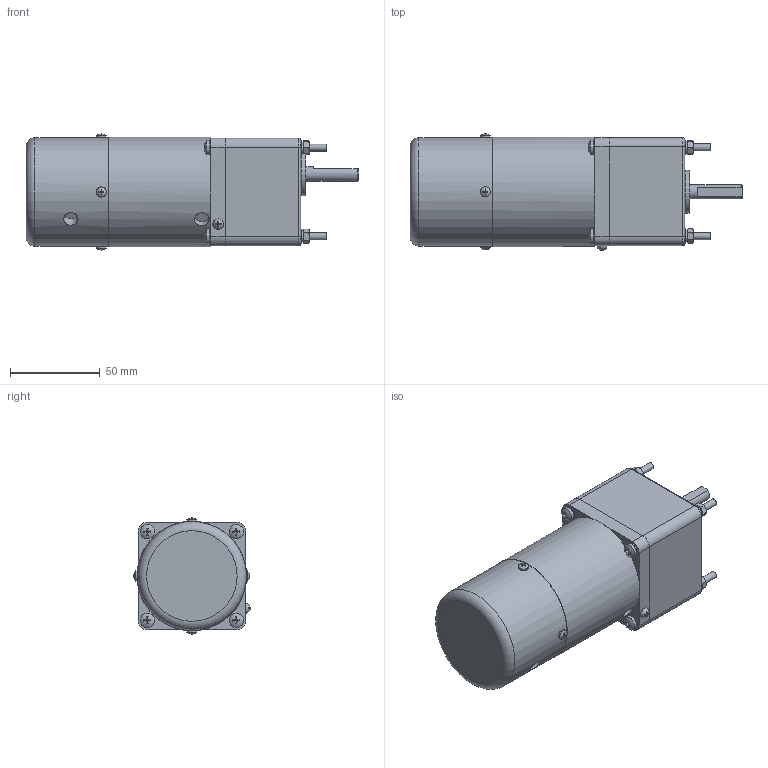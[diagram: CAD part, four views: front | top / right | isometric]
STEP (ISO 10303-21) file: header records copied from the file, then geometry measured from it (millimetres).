
FILE_DESCRIPTION(/* description */ (''),/* implementation_level */ '2;1');
FILE_NAME(/* name */ '60高箱T-6W刹车.stp',/* time_stamp */ '2022-10-31T08:42:34+08:00',/* author */ (''),/* organization */ (''),/* preprocessor_version */ 'ST-DEVELOPER v16.7',/* originating_system */ 'SIEMENS PLM Software NX 1899',/* authorisation */ '');
FILE_SCHEMA (('AP203_CONFIGURATION_CONTROLLED_3D_DESIGN_OF_MECHANICAL_PARTS_AND_ASSEMBLIES_MIM_LF { 1 0 10303 403 2 1 2}'));
Length unit declared in the file: millimetre
Products named in the file (1): yf186188FEB6lc36
Bounding box: 185 x 64.82 x 64.66 mm (x, y, z)
Volume: 477476.3 mm3; surface area: 56215.9 mm2
Topology: 22 solids, 23 shells, 454 faces, 1096 edges, 704 vertices
Faces by surface type: plane 209, bspline 84, cylinder 83, cone 61, torus 11, sphere 6
Full cylindrical faces by diameter (mm): 3 x1, 3.432 x4, 3.838 x4, 4 x4, 4.3 x8, 5.5 x4, 5.6 x4, 6 x5, 8 x14, 8.2 x1, 24 x1, 52.6 x1, 57 x2, 60.5 x1, 61 x1
Entity records: 14784 total; most frequent: CARTESIAN_POINT 4216, ORIENTED_EDGE 1954, DIRECTION 1648, EDGE_CURVE 977, AXIS2_PLACEMENT_3D 678, VERTEX_POINT 666, EDGE_LOOP 599, ADVANCED_FACE 454
